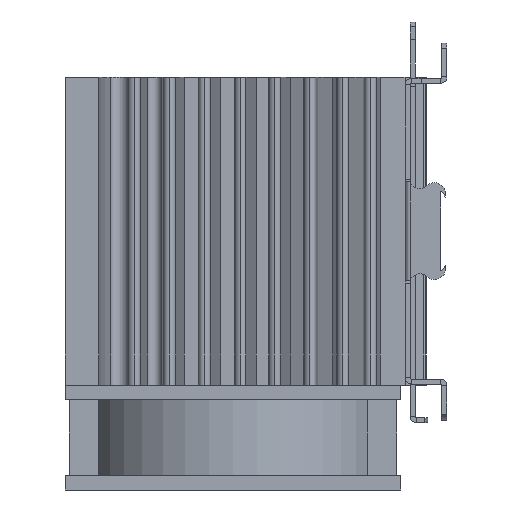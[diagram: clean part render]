
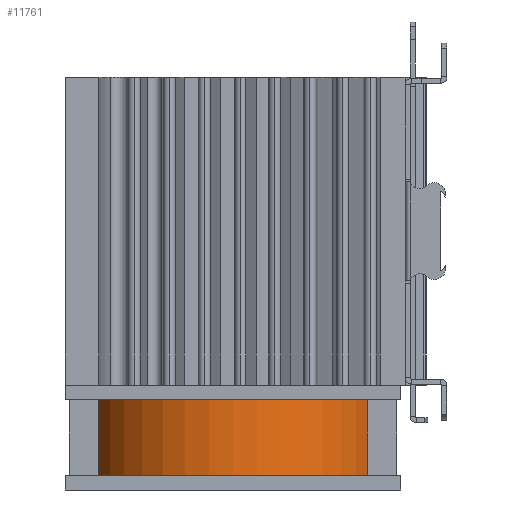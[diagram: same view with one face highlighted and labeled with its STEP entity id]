
A CAD part, left-side view. The second image highlights one B-rep face of the part: STEP entity #11761.
In plain terms, the highlighted cylindrical face has radius 52.5 mm (diameter 105 mm), a partial arc.
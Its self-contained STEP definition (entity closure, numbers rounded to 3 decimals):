
#141 = VERTEX_POINT ( 'NONE', #21075 ) ;
#148 = EDGE_LOOP ( 'NONE', ( #13309, #13216, #1238, #17603 ) ) ;
#263 = VERTEX_POINT ( 'NONE', #10159 ) ;
#749 = CARTESIAN_POINT ( 'NONE',  ( 648.979, 973.802, 1271.151 ) ) ;
#1238 = ORIENTED_EDGE ( 'NONE', *, *, #22422, .T. ) ;
#3910 = CARTESIAN_POINT ( 'NONE',  ( 669.829, 925.62, 1271.151 ) ) ;
#4921 = VECTOR ( 'NONE', #18819, 1000. ) ;
#5659 = AXIS2_PLACEMENT_3D ( 'NONE', #13217, #22254, #24857 ) ;
#6507 = DIRECTION ( 'NONE',  ( 0., 0., -1. ) ) ;
#7099 = EDGE_CURVE ( 'NONE', #27529, #263, #21269, .T. ) ;
#7507 = CIRCLE ( 'NONE', #9478, 52.5 ) ;
#7591 = CYLINDRICAL_SURFACE ( 'NONE', #19514, 52.5 ) ;
#8990 = EDGE_CURVE ( 'NONE', #27529, #15097, #7507, .T. ) ;
#9316 = CARTESIAN_POINT ( 'NONE',  ( 648.979, 877.438, 1228.193 ) ) ;
#9478 = AXIS2_PLACEMENT_3D ( 'NONE', #3910, #6507, #11110 ) ;
#9777 = LINE ( 'NONE', #24016, #10103 ) ;
#9895 = FACE_OUTER_BOUND ( 'NONE', #148, .T. ) ;
#10103 = VECTOR ( 'NONE', #17267, 1000. ) ;
#10159 = CARTESIAN_POINT ( 'NONE',  ( 648.979, 877.438, 1298.151 ) ) ;
#11110 = DIRECTION ( 'NONE',  ( -1., 0., 0. ) ) ;
#11761 = ADVANCED_FACE ( 'NONE', ( #9895 ), #7591, .T. ) ;
#13216 = ORIENTED_EDGE ( 'NONE', *, *, #7099, .T. ) ;
#13217 = CARTESIAN_POINT ( 'NONE',  ( 669.829, 925.62, 1298.151 ) ) ;
#13309 = ORIENTED_EDGE ( 'NONE', *, *, #8990, .F. ) ;
#15097 = VERTEX_POINT ( 'NONE', #749 ) ;
#17267 = DIRECTION ( 'NONE',  ( 0., 0., 1. ) ) ;
#17603 = ORIENTED_EDGE ( 'NONE', *, *, #29849, .F. ) ;
#18819 = DIRECTION ( 'NONE',  ( 0., 0., 1. ) ) ;
#18889 = CIRCLE ( 'NONE', #5659, 52.5 ) ;
#19514 = AXIS2_PLACEMENT_3D ( 'NONE', #26741, #27049, #19850 ) ;
#19850 = DIRECTION ( 'NONE',  ( 1., 0., 0. ) ) ;
#21075 = CARTESIAN_POINT ( 'NONE',  ( 648.979, 973.802, 1298.151 ) ) ;
#21269 = LINE ( 'NONE', #9316, #4921 ) ;
#22254 = DIRECTION ( 'NONE',  ( 0., 0., -1. ) ) ;
#22422 = EDGE_CURVE ( 'NONE', #263, #141, #18889, .T. ) ;
#22923 = CARTESIAN_POINT ( 'NONE',  ( 648.979, 877.438, 1271.151 ) ) ;
#24016 = CARTESIAN_POINT ( 'NONE',  ( 648.979, 973.802, 1228.193 ) ) ;
#24857 = DIRECTION ( 'NONE',  ( -1., 0., 0. ) ) ;
#26741 = CARTESIAN_POINT ( 'NONE',  ( 669.829, 925.62, 1122.658 ) ) ;
#27049 = DIRECTION ( 'NONE',  ( 0., 0., 1. ) ) ;
#27529 = VERTEX_POINT ( 'NONE', #22923 ) ;
#29849 = EDGE_CURVE ( 'NONE', #15097, #141, #9777, .T. ) ;
